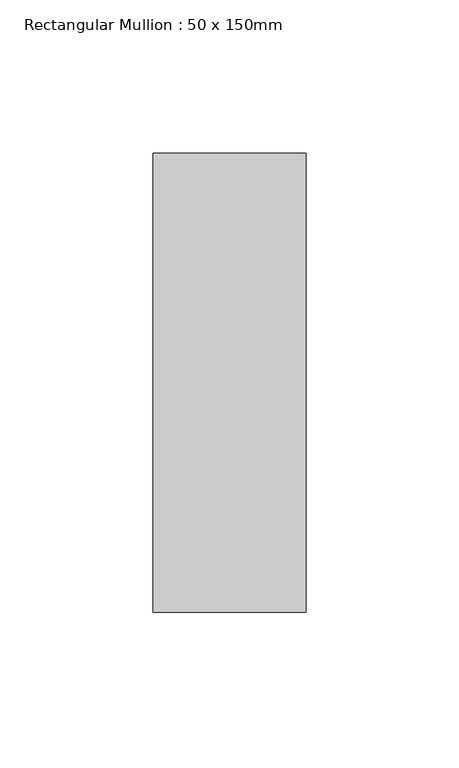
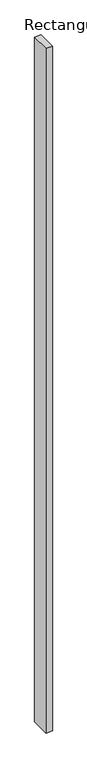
"""IFC4 building model written with IfcOpenShell, lengths in millimetres: member geometry, Rectangular Mullion : 50 x 150mm."""

import ifcopenshell
import ifcopenshell.guid

model = None  # the IFC model being written
_history = None  # IfcOwnerHistory: only IFC2X3 demands one
_inside = {}  # id of a spatial element -> (the spatial element, [elements in it])
_under = {}  # id of a project, library or spatial element -> (it, [spatial elements below it])
_declared = {}  # id of a project -> (the project, [libraries it declares])
_typed = {}  # id of a type object -> (the type object, [elements of that type])
_made_of = {}  # id of a material, layer set ... -> (it, [elements and type objects made of it])


def new_model(schema):
    """Start an empty IFC model of exactly this schema.

    Asked for "IFC4X3", IfcOpenShell would pick the latest addendum, in which some entities
    have other attributes; the version numbers below select the first issue.
    IFC2X3 requires an IfcOwnerHistory on every rooted entity: one is made here for all.
    """
    global model, _history
    if schema == "IFC4X3":
        model = ifcopenshell.file(schema_version=(4, 3, 0, 0))
    else:
        model = ifcopenshell.file(schema=schema)
    _inside.clear()
    _under.clear()
    _declared.clear()
    _typed.clear()
    _made_of.clear()
    _history = None
    if model.schema == "IFC2X3":
        org = make("IfcOrganization", Name="unknown")
        user = make(
            "IfcPersonAndOrganization",
            ThePerson=make("IfcPerson", FamilyName="unknown"),
            TheOrganization=org,
        )
        app = make(
            "IfcApplication",
            ApplicationDeveloper=org,
            Version="unknown",
            ApplicationFullName="unknown",
            ApplicationIdentifier="unknown",
        )
        _history = make(
            "IfcOwnerHistory",
            OwningUser=user,
            OwningApplication=app,
            ChangeAction="ADDED",
            CreationDate=0,
        )
    return model


def make(cls, **values):
    """One entity of the class cls with the attributes given. An attribute that is None is left unset."""
    return model.create_entity(
        cls, **{name: value for name, value in values.items() if value is not None}
    )


def rooted(cls, **values):
    """An entity with a GlobalId (a new one), such as an element, a storey or a relation."""
    return make(cls, GlobalId=ifcopenshell.guid.new(), OwnerHistory=_history, **values)


def si_unit(unit_type, name, prefix=None):
    """IfcSIUnit, for example si_unit("LENGTHUNIT", "METRE", prefix="MILLI")."""
    return make("IfcSIUnit", UnitType=unit_type, Prefix=prefix, Name=name)


def assignment(units):
    """IfcUnitAssignment: the units of a project."""
    return None if units is None else make("IfcUnitAssignment", Units=units)


def point(xyz):
    """IfcCartesianPoint."""
    return None if xyz is None else make("IfcCartesianPoint", Coordinates=xyz)


def direction(xyz):
    """IfcDirection."""
    return None if xyz is None else make("IfcDirection", DirectionRatios=xyz)


def frame(location, z_axis=None, x_axis=None):
    """IfcAxis2Placement3D, a coordinate frame: its origin and axes. An axis left out is left unset."""
    return make(
        "IfcAxis2Placement3D",
        Location=point(location),
        Axis=direction(z_axis),
        RefDirection=direction(x_axis),
    )


def origin():
    """The frame at (0, 0, 0) with its axes left unset."""
    return frame((0.0, 0.0, 0.0))


def place(relative_to, where):
    """IfcLocalPlacement: puts the frame where relative to a parent placement (None: the world)."""
    return make(
        "IfcLocalPlacement", PlacementRelTo=relative_to, RelativePlacement=where
    )


def context(
    kind, dimensions, precision=None, world=None, true_north=None, identifier=None
):
    """IfcGeometricRepresentationContext, for example the 3D "Model" context."""
    return make(
        "IfcGeometricRepresentationContext",
        ContextIdentifier=identifier,
        ContextType=kind,
        CoordinateSpaceDimension=dimensions,
        Precision=precision,
        WorldCoordinateSystem=world,
        TrueNorth=true_north,
    )


def project(units=None, contexts=None):
    """IfcProject with its units and contexts."""
    return rooted(
        "IfcProject",
        Name="project",
        RepresentationContexts=contexts,
        UnitsInContext=assignment(units),
    )


def spatial(cls, under=None, at=None, **own):
    """A site, building, storey or space (cls), placed at a placement, below another one or the project."""
    s = rooted(cls, ObjectPlacement=at, **own)
    if under is not None:
        _under.setdefault(under.id(), (under, []))[1].append(s)
    return s


def polyline(points):
    """IfcPolyline through the points."""
    return make("IfcPolyline", Points=[point(p) for p in points])


def outline(outer, holes=None, kind="AREA"):
    """IfcArbitraryClosedProfileDef: a profile drawn as a closed curve; with holes, ...WithVoids."""
    if holes is None:
        return make("IfcArbitraryClosedProfileDef", ProfileType=kind, OuterCurve=outer)
    return make(
        "IfcArbitraryProfileDefWithVoids",
        ProfileType=kind,
        OuterCurve=outer,
        InnerCurves=holes,
    )


def extrude(swept, where, along, depth):
    """IfcExtrudedAreaSolid: the profile swept, set in the frame where, extruded along a direction by depth."""
    return make(
        "IfcExtrudedAreaSolid",
        SweptArea=swept,
        Position=where,
        ExtrudedDirection=direction(along),
        Depth=depth,
    )


def shape(context_of_items, identifier, shape_type, items):
    """IfcShapeRepresentation: the items that make up one representation, for example the "Body"."""
    return make(
        "IfcShapeRepresentation",
        ContextOfItems=context_of_items,
        RepresentationIdentifier=identifier,
        RepresentationType=shape_type,
        Items=items,
    )


def source(mapping_origin, context_of_items, identifier, shape_type, items):
    """IfcRepresentationMap: a shape defined once, which mapped items show again and again."""
    return make(
        "IfcRepresentationMap",
        MappingOrigin=mapping_origin,
        MappedRepresentation=shape(context_of_items, identifier, shape_type, items),
    )


def transform(
    local_origin,
    x_axis=None,
    y_axis=None,
    z_axis=None,
    scale=None,
    scale2=None,
    scale3=None,
    uniform=True,
):
    """IfcCartesianTransformationOperator3D, or its non-uniform kind. x_axis, y_axis, z_axis: its Axis1, 2, 3."""
    if uniform:
        return make(
            "IfcCartesianTransformationOperator3D",
            Axis1=direction(x_axis),
            Axis2=direction(y_axis),
            LocalOrigin=point(local_origin),
            Scale=scale,
            Axis3=direction(z_axis),
        )
    return make(
        "IfcCartesianTransformationOperator3DnonUniform",
        Axis1=direction(x_axis),
        Axis2=direction(y_axis),
        LocalOrigin=point(local_origin),
        Scale=scale,
        Axis3=direction(z_axis),
        Scale2=scale2,
        Scale3=scale3,
    )


def mapped(mapping_source, mapping_target):
    """IfcMappedItem: shows the shape of a source again, moved by a transform."""
    return make(
        "IfcMappedItem", MappingSource=mapping_source, MappingTarget=mapping_target
    )


def made_of(thing, what):
    """Note that an element or type object is made of a material, layer set ...; save() writes the relation."""
    if what is not None:
        _made_of.setdefault(what.id(), (what, []))[1].append(thing)
    return thing


def element(
    cls,
    number,
    at=None,
    inside=None,
    cuts=None,
    type_object=None,
    material=None,
    context=None,
    identifier="Body",
    shape_type=None,
    held_by="IfcProductDefinitionShape",
    body=None,
    shapes=None,
    **own,
):
    """One element of the class cls, such as IfcWall. Its Tag is "e" and its number.

    at: its placement. inside: the storey or other place that contains it. cuts: it is an
    opening in that element (IfcRelVoidsElement). A single representation is given by context,
    identifier, shape_type and body (its items); several are given by shapes. held_by: the class
    of the entity that holds the representations. save() writes the other relations.
    """
    e = rooted(cls, Tag="e%d" % number, ObjectPlacement=at, **own)
    if body is not None:
        shapes = [shape(context, identifier, shape_type, body)]
    if shapes is not None:
        e.Representation = make(held_by, Representations=shapes)
    if inside is not None:
        _inside.setdefault(inside.id(), (inside, []))[1].append(e)
    if cuts is not None:
        rooted(
            "IfcRelVoidsElement", RelatingBuildingElement=cuts, RelatedOpeningElement=e
        )
    if type_object is not None:
        _typed.setdefault(type_object.id(), (type_object, []))[1].append(e)
    return made_of(e, material)


def aggregate(whole, parts):
    """IfcRelAggregates: a whole, such as a stair, and the parts it consists of."""
    return rooted("IfcRelAggregates", RelatingObject=whole, RelatedObjects=parts)


def save(model, path):
    """Write the relations noted so far, then the file.

    IfcRelAggregates (storeys below a building ...), IfcRelContainedInSpatialStructure (elements
    in a storey), IfcRelDefinesByType, IfcRelAssociatesMaterial and IfcRelDeclares: one each for
    every whole, place, type object, material and project.
    """
    for whole, parts in _under.values():
        aggregate(whole, parts)
    for where, things in _inside.values():
        rooted(
            "IfcRelContainedInSpatialStructure",
            RelatedElements=things,
            RelatingStructure=where,
        )
    for kind, things in _typed.values():
        rooted("IfcRelDefinesByType", RelatedObjects=things, RelatingType=kind)
    for what, things in _made_of.values():
        rooted("IfcRelAssociatesMaterial", RelatedObjects=things, RelatingMaterial=what)
    for by, libraries in _declared.values():
        rooted("IfcRelDeclares", RelatingContext=by, RelatedDefinitions=libraries)
    model.write(path)


def rectangular_mullion_50_x_150mm_78fac041(model_context):
    return source(origin(), model_context, "Body", "SweptSolid", [
        extrude(outline(polyline([(0.0, 75.0), (0.0, -75.0), (-50.0, -75.0), (-50.0, 75.0), (0.0, 75.0)])), frame((0.0, 0.0, -5613.0578156), z_axis=(0.0, 0.0, 1.0), x_axis=(1.0, 0.0, 0.0)), (0.0, 0.0, 1.0), 5613.0578156),
    ])


if __name__ == "__main__":
    model = new_model("IFC4")
    model_context = context("Model", 3, world=origin())
    ifc_project = project(units=[si_unit("LENGTHUNIT", "METRE", prefix="MILLI")], contexts=[model_context])
    site = spatial("IfcSite", under=ifc_project)
    building = spatial("IfcBuilding", under=site)
    placement = place(None, origin())
    rectangular_mullion_50_x_150mm_shape = rectangular_mullion_50_x_150mm_78fac041(model_context)
    element("IfcMember", 1, ObjectType="Rectangular Mullion : 50 x 150mm", at=placement, inside=building, context=model_context, shape_type="MappedRepresentation", body=[
        mapped(rectangular_mullion_50_x_150mm_shape, transform((0.0, 0.0, 0.0), x_axis=(1.0, 0.0, 0.0), y_axis=(0.0, 1.0, 0.0), z_axis=(0.0, 0.0, 1.0))),
    ])
    save(model, "model.ifc")
